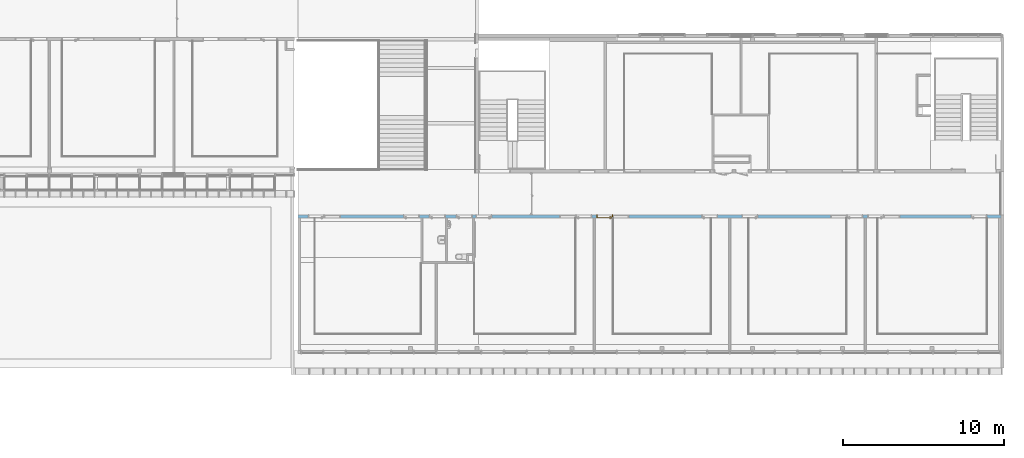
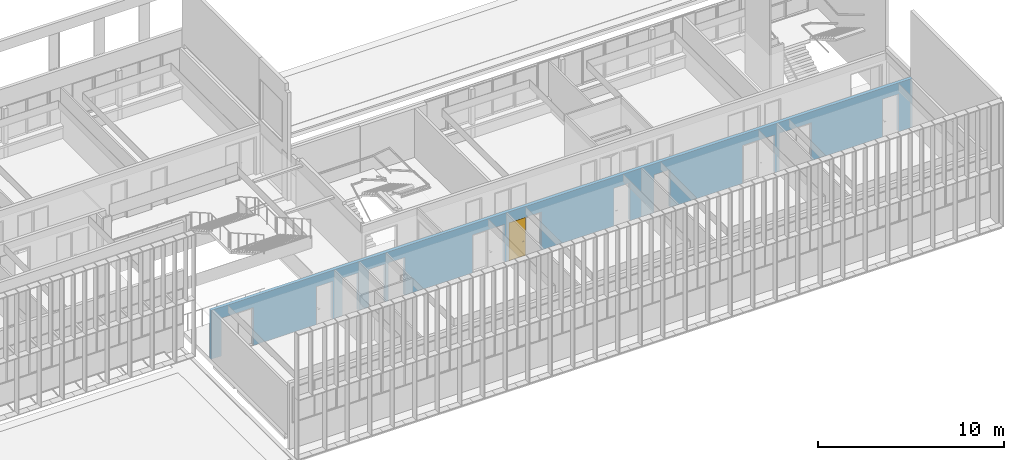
# One storey, part 71 of 106: 1 door, 18 openings, plus 1 element that does not belong to this part.
"""IFC2X3 building model written with IfcOpenShell, lengths in centimetres."""

from ifc_helpers import new_model, entity, si_unit, converted_unit, derived_unit, direction, frame, frame_2d, origin, place, context, subcontext, project, spatial, polyline, rectangle, extrude, clip, bounded_halfspace, faceted_brep, source, transform, mapped, material, material_list, layer, layer_set, layer_usage, type_object, type_shapes, element, fill, save


model = new_model("IFC2X3")

# Units and contexts
model_context = context("Model", 3, precision=0.001, world=origin(), true_north=direction((6.12303176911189e-17, 1.0)))
body_context = subcontext(model_context, "Body", "Model", "MODEL_VIEW")
ifc_project = project(units=[si_unit("LENGTHUNIT", "METRE", prefix="CENTI"), si_unit("AREAUNIT", "SQUARE_METRE"), si_unit("VOLUMEUNIT", "CUBIC_METRE"), converted_unit("PLANEANGLEUNIT", "DEGREE", entity("IfcRatioMeasure", 0.0174532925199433), si_unit("PLANEANGLEUNIT", "RADIAN"), dimensions=[0, 0, 0, 0, 0, 0, 0]), si_unit("MASSUNIT", "GRAM", prefix="KILO"), derived_unit("MASSDENSITYUNIT", [(si_unit("MASSUNIT", "GRAM", prefix="KILO"), 1), (si_unit("LENGTHUNIT", "METRE"), -3)]), si_unit("TIMEUNIT", "SECOND"), si_unit("FREQUENCYUNIT", "HERTZ"), si_unit("THERMODYNAMICTEMPERATUREUNIT", "DEGREE_CELSIUS"), derived_unit("THERMALTRANSMITTANCEUNIT", [(si_unit("MASSUNIT", "GRAM", prefix="KILO"), 1), (si_unit("THERMODYNAMICTEMPERATUREUNIT", "KELVIN"), -1), (si_unit("TIMEUNIT", "SECOND"), -3)]), derived_unit("VOLUMETRICFLOWRATEUNIT", [(si_unit("LENGTHUNIT", "METRE"), 3), (si_unit("TIMEUNIT", "SECOND"), -1)]), si_unit("ELECTRICCURRENTUNIT", "AMPERE"), si_unit("ELECTRICVOLTAGEUNIT", "VOLT"), si_unit("POWERUNIT", "WATT"), si_unit("FORCEUNIT", "NEWTON", prefix="KILO"), si_unit("ILLUMINANCEUNIT", "LUX"), si_unit("LUMINOUSFLUXUNIT", "LUMEN"), si_unit("LUMINOUSINTENSITYUNIT", "CANDELA"), derived_unit("USERDEFINED", [(si_unit("MASSUNIT", "GRAM", prefix="KILO"), -1), (si_unit("LENGTHUNIT", "METRE"), -2), (si_unit("TIMEUNIT", "SECOND"), 3), (si_unit("LUMINOUSFLUXUNIT", "LUMEN"), 1)]), derived_unit("LINEARVELOCITYUNIT", [(si_unit("LENGTHUNIT", "METRE"), 1), (si_unit("TIMEUNIT", "SECOND"), -1)]), si_unit("PRESSUREUNIT", "PASCAL"), derived_unit("USERDEFINED", [(si_unit("LENGTHUNIT", "METRE"), -2), (si_unit("MASSUNIT", "GRAM", prefix="KILO"), 1), (si_unit("TIMEUNIT", "SECOND"), -2)])], contexts=[model_context])

# Site, building, storey
site_placement = place(None, frame((-2781.94577612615, 7442.24238424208, 0.0)))
site = spatial("IfcSite", under=ifc_project, at=site_placement, Name="Default", CompositionType="ELEMENT")
building_placement = place(site_placement, origin())
building = spatial("IfcBuilding", under=site, at=building_placement, CompositionType="ELEMENT")
storey_placement = place(building_placement, frame((0.0, 0.0, 422.0)))
storey = spatial("IfcBuildingStorey", under=building, at=storey_placement, Name="Toiture - Cuisine", CompositionType="ELEMENT", Elevation=421.999999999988)

# Wall, openings, door
ifc_material_1 = material(Name="01 - Maçonnerie")
ifc_layer = layer(ifc_material_1, 20.0)
ifc_layer_set = layer_set([ifc_layer], Name="Mur de base:04 - Structure - béton - 20cm")
ifc_layer_usage = layer_usage(ifc_layer_set, "AXIS2", "NEGATIVE", 10.0)
wall_type = type_object("IfcWallType", Name="Mur de base:04 - Structure - béton - 20cm", PredefinedType="STANDARD", material=ifc_layer_set)
wall_placement = place(building_placement, frame((-4767.99987760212, -2200.15656731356, 422.0)))
wall = element("IfcWallStandardCase", 1, at=wall_placement, inside=storey, type_object=wall_type, material=ifc_layer_usage, Name="Mur de base:04 - Structure - béton - 20cm", ObjectType="Mur de base:04 - Structure - béton - 20cm", context=body_context, shape_type="Clipping", body=[
    clip(extrude(rectangle(XDim=4357.99999476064, YDim=19.9999999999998, at=frame_2d((2178.99999738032, -6.30606677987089e-14), x_axis=(-1.0, 0.0))), origin(), (0.0, 0.0, 1.0), 321.0), bounded_halfspace(frame((0.0, 10.0, 321.0), z_axis=(0.0, 0.0, -1.0), x_axis=(0.0, 1.0, 0.0)), True, frame((0.0, 10.0, 321.0)), polyline([(0.0, 0.0), (0.0, -20.0), (15.2999999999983, -20.0), (103.799999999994, -20.0), (105.799999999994, -20.0), (763.799999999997, -20.0), (773.799999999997, -20.0), (915.699994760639, -20.0), (925.699994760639, -20.0), (1082.69999476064, -20.0), (1092.69999476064, -20.0), (1720.69999476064, -20.0), (1722.69999476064, -20.0), (1832.69999476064, -20.0), (1842.69999476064, -20.0), (1952.69999476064, -20.0), (1954.69999476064, -20.0), (2560.69999476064, -20.0), (2562.69999476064, -20.0), (2672.69999476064, -20.0), (2682.69999476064, -20.0), (2792.69999476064, -20.0), (2794.69999476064, -20.0), (3400.69999476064, -20.0), (3402.69999476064, -20.0), (3512.69999476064, -20.0), (3522.69999476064, -20.0), (3592.69999476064, -20.0), (3594.69999476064, -20.0), (4270.69999476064, -20.0), (4272.69999476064, -20.0), (4342.69999476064, -20.0), (4358.0, -20.0), (4358.0, 0.0), (4356.0, 0.0), (1451.49999791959, 0.0), (1441.49999791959, 0.0), (1120.0, 0.0), (0.0, 0.0)]))),
])
opening_1_placement = place(wall_placement, origin())
element("IfcOpeningElement", 2, at=opening_1_placement, cuts=wall, Name="Mur de base:04 - Structure - béton - 20cm", ObjectType="Opening", context=body_context, shape_type="SweptSolid", body=[
    extrude(rectangle(XDim=270.0, YDim=20.0, at=frame_2d((0.0, 4.2632564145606e-14), x_axis=(0.0, 1.0))), frame((4368.0, 10.0, 135.0), z_axis=(0.0, 1.0, 0.0), x_axis=(1.0, 0.0, 0.0)), (0.0, 0.0, 1.0), 260.077533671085),
])
opening_2_placement = place(wall_placement, frame((4272.69999476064, 10.0, 0.0)))
element("IfcOpeningElement", 3, at=opening_2_placement, cuts=wall, Name="Int. Simple:PV (0.93m x 2.50m):1", ObjectType="Opening", context=body_context, shape_type="SweptSolid", body=[
    extrude(rectangle(XDim=248.500000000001, YDim=99.9999999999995, at=frame_2d((124.250000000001, 50.0), x_axis=(1.0, 0.0))), frame((0.0, 0.0, 0.0), z_axis=(0.0, -1.0, 0.0), x_axis=(0.0, 0.0, 1.0)), (0.0, 0.0, 1.0), 20.0),
])
opening_3_placement = place(wall_placement, frame((3632.69999476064, 10.0, 0.0)))
element("IfcOpeningElement", 4, at=opening_3_placement, cuts=wall, Name="Int. Simple:PV (0.93m x 2.50m):1", ObjectType="Opening", context=body_context, shape_type="SweptSolid", body=[
    extrude(rectangle(XDim=248.500000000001, YDim=99.9999999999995, at=frame_2d((124.250000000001, 49.9999999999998), x_axis=(1.0, 0.0))), frame((0.0, 0.0, 0.0), z_axis=(0.0, -1.0, 0.0), x_axis=(0.0, 0.0, 1.0)), (0.0, 0.0, 1.0), 20.0),
])
opening_4_placement = place(wall_placement, frame((3502.69999476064, 10.0, 0.0)))
element("IfcOpeningElement", 5, at=opening_4_placement, cuts=wall, Name="Int. Simple:PV (0.93m x 2.50m):1", ObjectType="Opening", context=body_context, shape_type="SweptSolid", body=[
    extrude(rectangle(XDim=248.500000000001, YDim=99.9999999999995, at=frame_2d((124.250000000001, 49.9999999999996), x_axis=(1.0, 0.0))), frame((0.0, 0.0, 0.0), z_axis=(0.0, -1.0, 0.0), x_axis=(0.0, 0.0, 1.0)), (0.0, 0.0, 1.0), 20.0),
])
opening_5_placement = place(wall_placement, frame((2852.69999476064, 10.0, 0.0)))
element("IfcOpeningElement", 6, at=opening_5_placement, cuts=wall, Name="Int. Simple:PV (0.93m x 2.50m):1", ObjectType="Opening", context=body_context, shape_type="SweptSolid", body=[
    extrude(rectangle(XDim=248.500000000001, YDim=99.9999999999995, at=frame_2d((124.250000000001, 49.9999999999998), x_axis=(1.0, 0.0))), frame((0.0, 0.0, 0.0), z_axis=(0.0, -1.0, 0.0), x_axis=(0.0, 0.0, 1.0)), (0.0, 0.0, 1.0), 20.0),
])
opening_6_placement = place(wall_placement, frame((2602.69999476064, 10.0, 0.0)))
element("IfcOpeningElement", 7, at=opening_6_placement, cuts=wall, Name="Int. Simple:PV (0.93m x 2.50m):1", ObjectType="Opening", context=body_context, shape_type="SweptSolid", body=[
    extrude(rectangle(XDim=248.500000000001, YDim=99.9999999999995, at=frame_2d((124.250000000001, 49.9999999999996), x_axis=(1.0, 0.0))), frame((0.0, 0.0, 0.0), z_axis=(0.0, -1.0, 0.0), x_axis=(0.0, 0.0, 1.0)), (0.0, 0.0, 1.0), 20.0),
])
opening_7_placement = place(wall_placement, frame((1952.69999476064, 10.0, 0.0)))
opening_7 = element("IfcOpeningElement", 8, at=opening_7_placement, cuts=wall, Name="Int. Simple:PV (0.93m x 2.50m):1", ObjectType="Opening", context=body_context, shape_type="SweptSolid", body=[
    extrude(rectangle(XDim=248.500000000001, YDim=99.9999999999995, at=frame_2d((124.250000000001, 49.9999999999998), x_axis=(1.0, 0.0))), frame((0.0, 0.0, 0.0), z_axis=(0.0, -1.0, 0.0), x_axis=(0.0, 0.0, 1.0)), (0.0, 0.0, 1.0), 20.0),
])
opening_8_placement = place(wall_placement, frame((1822.69999476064, 10.0, 0.0)))
element("IfcOpeningElement", 9, at=opening_8_placement, cuts=wall, Name="Int. Simple:PV (0.93m x 2.50m):1", ObjectType="Opening", context=body_context, shape_type="SweptSolid", body=[
    extrude(rectangle(XDim=248.500000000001, YDim=99.9999999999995, at=frame_2d((124.250000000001, 49.9999999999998), x_axis=(1.0, 0.0))), frame((0.0, 0.0, 0.0), z_axis=(0.0, -1.0, 0.0), x_axis=(0.0, 0.0, 1.0)), (0.0, 0.0, 1.0), 20.0),
])
opening_9_placement = place(wall_placement, frame((1202.69999476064, 10.0, 0.0)))
element("IfcOpeningElement", 10, at=opening_9_placement, cuts=wall, Name="Int. Simple:PV (0.93m x 2.50m):1", ObjectType="Opening", context=body_context, shape_type="SweptSolid", body=[
    extrude(rectangle(XDim=248.500000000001, YDim=99.9999999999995, at=frame_2d((124.250000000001, 49.9999999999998), x_axis=(1.0, 0.0))), frame((0.0, 0.0, 0.0), z_axis=(0.0, -1.0, 0.0), x_axis=(0.0, 0.0, 1.0)), (0.0, 0.0, 1.0), 20.0),
])
opening_10_placement = place(wall_placement, frame((1081.19999476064, 10.0, 0.0)))
element("IfcOpeningElement", 11, at=opening_10_placement, cuts=wall, Name="Int. Simple:PP simple (0.93m x 2.50m):1", ObjectType="Opening", context=body_context, shape_type="SweptSolid", body=[
    extrude(rectangle(XDim=248.500000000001, YDim=99.9999999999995, at=frame_2d((124.250000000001, 49.9999999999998), x_axis=(1.0, 0.0))), frame((0.0, 0.0, 0.0), z_axis=(0.0, -1.0, 0.0), x_axis=(0.0, 0.0, 1.0)), (0.0, 0.0, 1.0), 20.0),
])
opening_11_placement = place(wall_placement, frame((753.799999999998, 10.0, 0.0)))
element("IfcOpeningElement", 12, at=opening_11_placement, cuts=wall, Name="Int. Simple:PV (0.93m x 2.50m):1", ObjectType="Opening", context=body_context, shape_type="SweptSolid", body=[
    extrude(rectangle(XDim=248.500000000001, YDim=99.9999999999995, at=frame_2d((124.250000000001, 50.0), x_axis=(1.0, 0.0))), frame((0.0, 0.0, 0.0), z_axis=(0.0, -1.0, 0.0), x_axis=(0.0, 0.0, 1.0)), (0.0, 0.0, 1.0), 20.0),
])
opening_12_placement = place(wall_placement, frame((163.799999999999, 10.0, 0.0)))
element("IfcOpeningElement", 13, at=opening_12_placement, cuts=wall, Name="Int. Simple:PV (0.93m x 2.50m):1", ObjectType="Opening", context=body_context, shape_type="SweptSolid", body=[
    extrude(rectangle(XDim=248.500000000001, YDim=99.9999999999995, at=frame_2d((124.250000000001, 49.9999999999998), x_axis=(1.0, 0.0))), frame((0.0, 0.0, 0.0), z_axis=(0.0, -1.0, 0.0), x_axis=(0.0, 0.0, 1.0)), (0.0, 0.0, 1.0), 20.0),
])
opening_13_placement = place(wall_placement, frame((263.799999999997, 10.0, 0.0)))
element("IfcOpeningElement", 14, at=opening_13_placement, cuts=wall, Name="châssis intérieur vitré:châssis intérieur vitré (h=270) R+1:1", ObjectType="Opening", context=body_context, shape_type="SweptSolid", body=[
    extrude(rectangle(XDim=250.0, YDim=99.9999999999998, at=frame_2d((125.0, 49.9999999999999), x_axis=(1.0, 0.0))), frame((0.0, 0.0, 0.0), z_axis=(0.0, -1.0, 0.0), x_axis=(0.0, 0.0, 1.0)), (0.0, 0.0, 1.0), 20.0),
])
opening_14_placement = place(wall_placement, frame((1722.69999476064, 10.0, 0.0)))
element("IfcOpeningElement", 15, at=opening_14_placement, cuts=wall, Name="châssis intérieur vitré:châssis intérieur vitré (h=270) R+1:1", ObjectType="Opening", context=body_context, shape_type="SweptSolid", body=[
    extrude(rectangle(XDim=250.0, YDim=99.9999999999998, at=frame_2d((125.0, 49.9999999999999), x_axis=(1.0, 0.0))), frame((0.0, 0.0, 0.0), z_axis=(0.0, -1.0, 0.0), x_axis=(0.0, 0.0, 1.0)), (0.0, 0.0, 1.0), 20.0),
])
opening_15_placement = place(wall_placement, frame((2052.69999476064, 10.0, 0.0)))
element("IfcOpeningElement", 16, at=opening_15_placement, cuts=wall, Name="châssis intérieur vitré:châssis intérieur vitré (h=270) R+1:1", ObjectType="Opening", context=body_context, shape_type="SweptSolid", body=[
    extrude(rectangle(XDim=250.0, YDim=99.9999999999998, at=frame_2d((125.0, 49.9999999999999), x_axis=(1.0, 0.0))), frame((0.0, 0.0, 0.0), z_axis=(0.0, -1.0, 0.0), x_axis=(0.0, 0.0, 1.0)), (0.0, 0.0, 1.0), 20.0),
])
opening_16_placement = place(wall_placement, frame((3402.69999476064, 10.0, 0.0)))
element("IfcOpeningElement", 17, at=opening_16_placement, cuts=wall, Name="châssis intérieur vitré:châssis intérieur vitré (h=270) R+1:1", ObjectType="Opening", context=body_context, shape_type="SweptSolid", body=[
    extrude(rectangle(XDim=250.0, YDim=99.9999999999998, at=frame_2d((125.0, 49.9999999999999), x_axis=(1.0, 0.0))), frame((0.0, 0.0, 0.0), z_axis=(0.0, -1.0, 0.0), x_axis=(0.0, 0.0, 1.0)), (0.0, 0.0, 1.0), 20.0),
])
opening_17_placement = place(wall_placement, frame((3732.69999476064, 10.0, 0.0)))
element("IfcOpeningElement", 18, at=opening_17_placement, cuts=wall, Name="châssis intérieur vitré:châssis intérieur vitré (h=270) R+1:1", ObjectType="Opening", context=body_context, shape_type="SweptSolid", body=[
    extrude(rectangle(XDim=250.0, YDim=99.9999999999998, at=frame_2d((125.0, 49.9999999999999), x_axis=(1.0, 0.0))), frame((0.0, 0.0, 0.0), z_axis=(0.0, -1.0, 0.0), x_axis=(0.0, 0.0, 1.0)), (0.0, 0.0, 1.0), 20.0),
])
opening_18_placement = place(wall_placement, frame((914.199994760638, 10.0, 0.0)))
element("IfcOpeningElement", 19, at=opening_18_placement, cuts=wall, Name="Int. Simple:PP simple (0.93m x 2.50m):1", ObjectType="Opening", context=body_context, shape_type="SweptSolid", body=[
    extrude(rectangle(XDim=248.500000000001, YDim=99.9999999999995, at=frame_2d((124.250000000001, 50.0), x_axis=(1.0, 0.0))), frame((0.0, 0.0, 0.0), z_axis=(0.0, -1.0, 0.0), x_axis=(0.0, 0.0, 1.0)), (0.0, 0.0, 1.0), 20.0),
])
ifc_material_2 = material(Name="Finition Peinture - Blanc satiné")
ifc_material_3 = material(Name="Bois - Panneau de porte")
ifc_material_4 = material(Name="Bois - Cadre de porte")
ifc_material_list_1 = material_list([ifc_material_2, ifc_material_3, ifc_material_4])
ifc_material_list_2 = material_list([ifc_material_2, ifc_material_3, ifc_material_4])
door_style = type_object("IfcDoorStyle", Name="PV (0.93m x 2.50m)", ConstructionType="NOTDEFINED", OperationType="SINGLE_SWING_RIGHT", ParameterTakesPrecedence=False, Sizeable=False, material=ifc_material_list_2)
shared_shape = source(origin(), body_context, "Body", "Brep", [
    faceted_brep([(99.5000000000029, -0.500000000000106, 87.0), (99.5000000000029, -0.500000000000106, 108.0), (98.535276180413, -0.500000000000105, 108.399601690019), (97.5000000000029, -0.500000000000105, 108.535898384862), (96.4647238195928, -0.500000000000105, 108.399601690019), (95.500000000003, -0.500000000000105, 108.0), (95.5000000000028, -0.500000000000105, 87.0), (96.4647238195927, -0.500000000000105, 86.6003983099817), (97.5000000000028, -0.500000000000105, 86.464101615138), (98.5352761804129, -0.500000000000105, 86.6003983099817), (99.5000000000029, 0.0, 108.0), (99.5000000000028, 0.0, 87.0), (98.5352761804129, 0.0, 86.6003983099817), (97.5000000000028, 0.0, 86.464101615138), (96.4647238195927, 0.0, 86.6003983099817), (95.5000000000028, 0.0, 87.0), (95.5000000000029, 0.0, 108.0), (96.4647238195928, 0.0, 108.399601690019), (97.5000000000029, 0.0, 108.535898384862), (98.535276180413, 0.0, 108.399601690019)], [[[0, 1, 2, 3, 4, 5, 6, 7, 8, 9]], [[10, 11, 12, 13, 14, 15, 16, 17, 18, 19]], [[9, 12, 11, 0]], [[8, 13, 12, 9]], [[7, 14, 13, 8]], [[7, 6, 15, 14]], [[15, 6, 5, 16]], [[4, 17, 16, 5]], [[3, 18, 17, 4]], [[2, 19, 18, 3]], [[2, 1, 10, 19]], [[11, 10, 1, 0]]]),
    faceted_brep([(99.5000000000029, 4.0, 87.0), (99.5000000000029, 4.0, 108.0), (98.535276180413, 4.0, 108.399601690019), (97.5000000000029, 4.0, 108.535898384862), (96.4647238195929, 4.0, 108.399601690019), (95.500000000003, 4.0, 108.0), (95.5000000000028, 4.0, 87.0), (96.4647238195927, 4.0, 86.6003983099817), (97.5000000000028, 4.0, 86.464101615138), (98.5352761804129, 4.0, 86.6003983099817), (97.5000000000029, 4.49999999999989, 108.535898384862), (98.535276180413, 4.49999999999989, 108.399601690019), (99.5000000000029, 4.49999999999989, 108.0), (99.5000000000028, 4.49999999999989, 87.0), (98.5352761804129, 4.49999999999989, 86.6003983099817), (97.5000000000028, 4.49999999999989, 86.464101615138), (96.4647238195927, 4.49999999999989, 86.6003983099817), (95.5000000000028, 4.49999999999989, 87.0), (95.500000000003, 4.49999999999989, 108.0), (96.4647238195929, 4.49999999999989, 108.399601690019)], [[[0, 1, 2, 3, 4, 5, 6, 7, 8, 9]], [[10, 11, 12, 13, 14, 15, 16, 17, 18, 19]], [[4, 19, 18, 5]], [[3, 10, 19, 4]], [[2, 11, 10, 3]], [[2, 1, 12, 11]], [[13, 12, 1, 0]], [[9, 14, 13, 0]], [[8, 15, 14, 9]], [[7, 16, 15, 8]], [[7, 6, 17, 16]], [[17, 6, 5, 18]]]),
    faceted_brep([(97.2974701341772, -0.500000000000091, 100.778044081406), (97.7025298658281, -0.500000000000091, 100.778044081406), (98.1000000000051, -0.500000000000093, 100.699999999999), (98.100000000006, -0.500000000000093, 99.2999999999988), (97.7025298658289, -0.500000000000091, 99.221955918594), (97.297470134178, -0.500000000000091, 99.2219559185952), (96.9000000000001, -0.500000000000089, 99.3000000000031), (96.9000000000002, -0.500000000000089, 100.7), (97.7025298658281, -3.10045754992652, 100.778044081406), (98.1000000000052, -3.26509507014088, 100.7), (97.2974701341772, -2.93267631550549, 100.778044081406), (95.9298602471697, -4.30028620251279, 100.778044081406), (96.0976414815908, -4.70534593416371, 100.778044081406), (96.9000000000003, -2.76803879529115, 100.7), (96.9000000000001, -2.76803879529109, 99.3000000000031), (97.297470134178, -2.93267631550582, 99.2219559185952), (97.7025298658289, -3.10045754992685, 99.221955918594), (96.0976414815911, -4.70534593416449, 99.221955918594), (95.9298602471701, -4.30028620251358, 99.2219559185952), (98.100000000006, -3.26509507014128, 99.2999999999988), (96.2622790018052, -5.1028160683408, 100.7), (95.7652227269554, -3.90281606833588, 100.7), (95.7652227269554, -3.90281606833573, 99.3000000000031), (96.2622790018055, -5.10281606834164, 99.2999999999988), (87.4981359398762, -5.10281606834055, 100.7), (87.4981359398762, -4.70534593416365, 100.778044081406), (87.4981359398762, -4.30028620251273, 100.778044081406), (87.4981359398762, -3.90281606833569, 100.699999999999), (87.4981359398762, -3.90281606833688, 99.3000000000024), (87.4981359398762, -4.30028620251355, 99.2219559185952), (87.4981359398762, -4.70534593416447, 99.221955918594), (87.4981359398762, -5.10281606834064, 99.2999999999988), (91.7139980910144, -4.5028160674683, 100.78786867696), (92.2692302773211, -5.1028160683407, 100.7), (91.6316793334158, -3.9028160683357, 100.7), (91.631679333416, -3.90281606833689, 99.3000000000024), (91.7139981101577, -4.50281607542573, 99.2121313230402), (92.2692310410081, -5.10281606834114, 99.2999999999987)], [[[0, 1, 2, 3, 4, 5, 6, 7]], [[2, 1, 8, 9]], [[1, 0, 10, 11, 12, 8]], [[0, 7, 13, 10]], [[14, 13, 7, 6]], [[5, 15, 14, 6]], [[5, 4, 16, 17, 18, 15]], [[3, 19, 16, 4]], [[9, 19, 3, 2]], [[9, 8, 12, 20]], [[10, 13, 21, 11]], [[22, 21, 13, 14]], [[14, 15, 18, 22]], [[16, 19, 23, 17]], [[20, 23, 19, 9]], [[24, 25, 26, 27, 28, 29, 30, 31]], [[32, 25, 33]], [[33, 25, 24]], [[33, 20, 12]], [[11, 34, 32]], [[34, 11, 21]], [[27, 26, 34]], [[32, 26, 25]], [[32, 34, 26]], [[32, 33, 12]], [[11, 32, 12]], [[21, 22, 35, 28, 27, 34]], [[36, 29, 35]], [[30, 36, 37]], [[18, 35, 22]], [[29, 28, 35]], [[30, 37, 31]], [[37, 17, 23]], [[36, 17, 37]], [[36, 18, 17]], [[36, 35, 18]], [[29, 36, 30]], [[23, 20, 33, 24, 31, 37]]]),
    faceted_brep([(97.2974701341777, 4.49999999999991, 99.2219559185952), (97.7025298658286, 4.49999999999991, 99.221955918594), (98.1000000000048, 4.4999999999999, 99.2999999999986), (98.1000000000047, 4.4999999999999, 100.7), (97.7025298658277, 4.49999999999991, 100.778044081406), (97.2974701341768, 4.49999999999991, 100.778044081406), (96.8999999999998, 4.49999999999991, 100.7), (96.900000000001, 4.49999999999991, 99.3000000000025), (96.8999999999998, 6.7485204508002, 100.7), (96.8999999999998, 6.74852045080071, 99.3000000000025), (97.2974701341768, 6.91315797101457, 100.778044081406), (97.7025298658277, 7.0809392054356, 100.778044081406), (96.0838906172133, 8.69957845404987, 100.778044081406), (95.9161093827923, 8.29451872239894, 100.778044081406), (98.1000000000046, 7.24557672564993, 100.7), (98.1000000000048, 7.24557672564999, 99.2999999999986), (97.7025298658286, 7.08093920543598, 99.221955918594), (97.2974701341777, 6.91315797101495, 99.2219559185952), (95.9161093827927, 8.29451872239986, 99.2219559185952), (96.0838906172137, 8.69957845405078, 99.221955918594), (95.751471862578, 7.89704858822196, 100.7), (95.7514718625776, 7.89704858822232, 99.3000000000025), (96.2485281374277, 9.09704858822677, 100.7), (96.2485281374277, 9.09704858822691, 99.2999999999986), (87.4954216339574, 8.29451872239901, 100.778044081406), (87.4954216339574, 8.69957845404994, 100.778044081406), (87.4954216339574, 9.09704858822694, 100.7), (87.4954216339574, 9.09704858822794, 99.2999999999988), (87.4954216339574, 8.6995784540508, 99.221955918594), (87.4954216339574, 8.29451872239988, 99.2219559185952), (87.4954216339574, 7.89704858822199, 99.3000000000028), (87.4954216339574, 7.89704858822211, 100.7), (91.6234467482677, 7.89704858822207, 100.7), (91.6234479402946, 7.89704858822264, 99.3000000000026), (91.7057655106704, 8.49704858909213, 100.78786867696), (92.255479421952, 9.09704858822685, 100.7), (92.2554795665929, 9.09704858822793, 99.2999999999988), (91.7057654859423, 8.49704858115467, 99.2121313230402)], [[[0, 1, 2, 3, 4, 5, 6, 7]], [[8, 9, 7, 6]], [[5, 10, 8, 6]], [[5, 4, 11, 12, 13, 10]], [[3, 14, 11, 4]], [[14, 3, 2, 15]], [[2, 1, 16, 15]], [[1, 0, 17, 18, 19, 16]], [[0, 7, 9, 17]], [[20, 21, 9, 8]], [[8, 10, 13, 20]], [[14, 22, 12, 11]], [[23, 22, 14, 15]], [[15, 16, 19, 23]], [[17, 9, 21, 18]], [[24, 25, 26, 27, 28, 29, 30, 31]], [[21, 20, 32, 31, 30, 33]], [[34, 24, 32]], [[25, 34, 35]], [[13, 32, 20]], [[24, 31, 32]], [[25, 35, 26]], [[35, 12, 22]], [[34, 12, 35]], [[34, 13, 12]], [[34, 32, 13]], [[24, 34, 25]], [[22, 23, 36, 27, 26, 35]], [[37, 28, 36]], [[36, 28, 27]], [[36, 23, 19]], [[18, 33, 37]], [[33, 18, 21]], [[30, 29, 33]], [[37, 29, 28]], [[37, 33, 29]], [[37, 36, 19]], [[18, 37, 19]]]),
    faceted_brep([(103.500000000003, 4.0, 245.0), (103.500000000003, 4.0, 0.0), (10.5000000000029, 4.0, 0.0), (10.5000000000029, 4.0, 245.0), (103.500000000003, 0.0, 245.0), (10.5000000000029, 0.0, 245.0), (10.5000000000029, 0.0, 0.0), (103.500000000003, 0.0, 0.0)], [[[0, 1, 2, 3]], [[4, 5, 6, 7]], [[3, 5, 4, 0]], [[2, 6, 5, 3]], [[1, 7, 6, 2]], [[0, 4, 7, 1]]]),
    faceted_brep([(107.0, 20.0, 0.0), (107.0, 0.0, 0.0), (108.500000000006, 0.0, 0.0), (108.500000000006, -0.500000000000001, 0.0), (103.500000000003, -0.500000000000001, 0.0), (103.500000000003, 4.0, 0.0), (102.0, 4.0, 0.0), (102.0, 20.5000000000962, 0.0), (108.500000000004, 20.5000000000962, 0.0), (108.500000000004, 20.0, 0.0), (108.500000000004, 20.0, 250.0), (5.50000000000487, 20.0, 250.0), (5.50000000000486, 20.0, 0.0), (7.0, 20.0, 0.0), (7.0, 20.0, 248.500000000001), (107.0, 20.0, 248.500000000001), (108.500000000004, 20.5000000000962, 250.0), (102.0, 20.5000000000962, 243.5), (12.0, 20.5000000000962, 243.5), (12.0, 20.5000000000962, 0.0), (5.50000000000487, 20.5000000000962, 0.0), (5.50000000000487, 20.5000000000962, 250.0), (102.0, 4.0, 243.5), (103.500000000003, 4.0, 245.0), (10.5000000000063, 4.0, 245.0), (10.5000000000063, 4.0, 0.0), (12.0, 4.0, 0.0), (12.0, 4.0, 243.5), (103.500000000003, -0.500000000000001, 245.0), (108.500000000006, -0.500000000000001, 250.0), (5.5000000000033, -0.500000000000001, 250.0), (5.50000000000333, -0.500000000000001, 0.0), (10.5000000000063, -0.500000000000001, 0.0), (10.5000000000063, -0.500000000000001, 245.0), (108.500000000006, 0.0, 250.0), (107.0, 0.0, 248.500000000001), (7.0, 0.0, 248.500000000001), (7.0, 0.0, 0.0), (5.5000000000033, 0.0, 0.0), (5.50000000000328, 0.0, 250.0)], [[[0, 1, 2, 3, 4, 5, 6, 7, 8, 9]], [[9, 10, 11, 12, 13, 14, 15, 0]], [[8, 16, 10, 9]], [[7, 17, 18, 19, 20, 21, 16, 8]], [[7, 6, 22, 17]], [[5, 23, 24, 25, 26, 27, 22, 6]], [[5, 4, 28, 23]], [[3, 29, 30, 31, 32, 33, 28, 4]], [[2, 34, 29, 3]], [[1, 35, 36, 37, 38, 39, 34, 2]], [[0, 15, 35, 1]], [[14, 13, 37, 36]], [[13, 12, 20, 19, 26, 25, 32, 31, 38, 37]], [[21, 20, 12, 11]], [[27, 26, 19, 18]], [[33, 32, 25, 24]], [[39, 38, 31, 30]], [[16, 21, 11, 10]], [[22, 27, 18, 17]], [[28, 33, 24, 23]], [[34, 39, 30, 29]], [[15, 14, 36, 35]]]),
])
type_shapes(door_style, [shared_shape])
door_placement = place(opening_7_placement, frame((-107.0, -20.0, 0.0)))
door = element("IfcDoor", 20, at=door_placement, inside=storey, type_object=door_style, material=ifc_material_list_1, Name="Int. Simple:PV (0.93m x 2.50m)", ObjectType="Int. Simple:PV (0.93m x 2.50m)", OverallHeight=248.500000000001, OverallWidth=99.9999999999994, context=body_context, shape_type="MappedRepresentation", body=[
    mapped(shared_shape, transform((0.0, 0.0, 0.0), scale=1.0)),
])
fill(opening_7, door)

save(model, "model.ifc")
